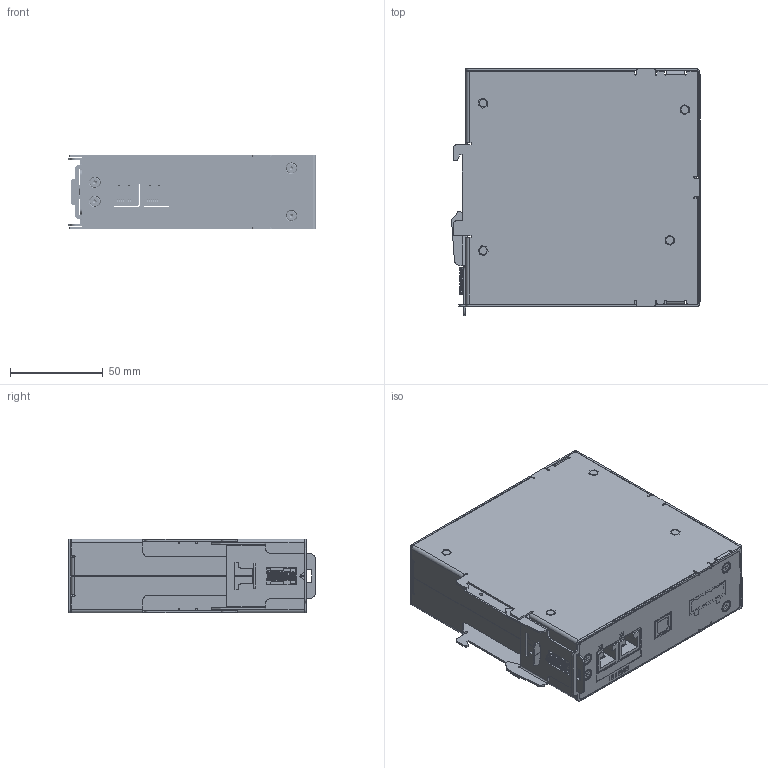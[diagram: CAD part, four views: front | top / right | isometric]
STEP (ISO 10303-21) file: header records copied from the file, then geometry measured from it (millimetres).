
FILE_DESCRIPTION (( 'STEP AP214' ), '1' );
FILE_NAME ('991-24578-00 Modbus TCP Dumb Solid.STEP', '2023-02-15T22:52:34', ( '' ), ( '' ), 'SwSTEP 2.0', 'SolidWorks 2019', '' );
FILE_SCHEMA (( 'AUTOMOTIVE_DESIGN' ));
Length unit declared in the file: millimetre
Products named in the file (1): 991-24578-00 Modbus TCP Dumb Solid
Bounding box: 134.14 x 133.35 x 39.6 mm (x, y, z)
Volume: 88904.9 mm3; surface area: 178605.3 mm2
Topology: 75 solids, 75 shells, 5371 faces, 14183 edges, 9189 vertices
Faces by surface type: plane 3320, cylinder 1507, bspline 287, cone 161, torus 80, sphere 16
Entity records: 242956 total; most frequent: CARTESIAN_POINT 51585, ORIENTED_EDGE 28302, DIRECTION 26834, EDGE_CURVE 14151, VECTOR 9926, LINE 9926, VERTEX_POINT 9189, AXIS2_PLACEMENT_3D 8454
